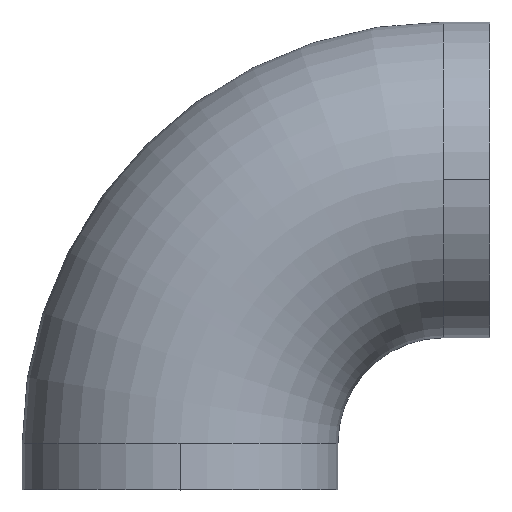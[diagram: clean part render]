
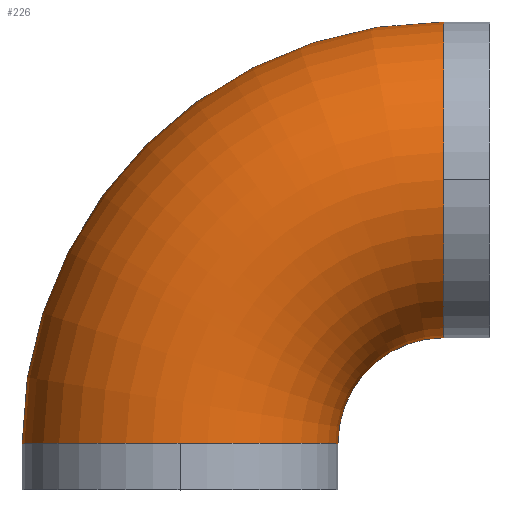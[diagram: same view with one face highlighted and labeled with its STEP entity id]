
A CAD part, top view. The second image highlights one B-rep face of the part: STEP entity #226.
In plain terms, the highlighted toroidal (fillet/blend) face has major radius 140.487 mm and minor radius 84.138 mm.
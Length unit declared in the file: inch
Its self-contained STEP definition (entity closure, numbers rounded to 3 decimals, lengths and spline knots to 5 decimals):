
#4 = EDGE_CURVE ( 'NONE', #258, #263, #237, .T. ) ;
#14 = EDGE_CURVE ( 'NONE', #264, #258, #85, .T. ) ;
#15 = EDGE_CURVE ( 'NONE', #263, #256, #95, .T. ) ;
#22 = EDGE_CURVE ( 'NONE', #259, #256, #104, .T. ) ;
#25 = AXIS2_PLACEMENT_3D ( 'NONE', #71, #74, #73 ) ;
#28 = AXIS2_PLACEMENT_3D ( 'NONE', #156, #148, #155 ) ;
#29 = AXIS2_PLACEMENT_3D ( 'NONE', #161, #169, #152 ) ;
#31 = AXIS2_PLACEMENT_3D ( 'NONE', #163, #162, #160 ) ;
#35 = AXIS2_PLACEMENT_3D ( 'NONE', #139, #138, #137 ) ;
#36 = AXIS2_PLACEMENT_3D ( 'NONE', #134, #133, #132 ) ;
#40 = AXIS2_PLACEMENT_3D ( 'NONE', #124, #125, #149 ) ;
#71 = CARTESIAN_POINT ( 'NONE',  ( 5.531, 0., 0. ) ) ;
#73 = DIRECTION ( 'NONE',  ( 0., 0., -1. ) ) ;
#74 = DIRECTION ( 'NONE',  ( 1., 0., 0. ) ) ;
#85 = CIRCLE ( 'NONE', #28, 8.8435 ) ;
#87 = TOROIDAL_SURFACE ( 'NONE', #40, 5.531, 3.3125 ) ;
#88 = CIRCLE ( 'NONE', #36, 3.3125 ) ;
#95 = CIRCLE ( 'NONE', #29, 3.3125 ) ;
#102 = CIRCLE ( 'NONE', #35, 3.3125 ) ;
#104 = CIRCLE ( 'NONE', #31, 2.2185 ) ;
#124 = CARTESIAN_POINT ( 'NONE',  ( 5.531, -5.531, 0. ) ) ;
#125 = DIRECTION ( 'NONE',  ( 0., 0., -1. ) ) ;
#132 = DIRECTION ( 'NONE',  ( 0., 0., -1. ) ) ;
#133 = DIRECTION ( 'NONE',  ( 0., -1., 0. ) ) ;
#134 = CARTESIAN_POINT ( 'NONE',  ( 0., -5.531, 0. ) ) ;
#137 = DIRECTION ( 'NONE',  ( 0., 0., -1. ) ) ;
#138 = DIRECTION ( 'NONE',  ( 0., -1., 0. ) ) ;
#139 = CARTESIAN_POINT ( 'NONE',  ( 0., -5.531, 0. ) ) ;
#148 = DIRECTION ( 'NONE',  ( 0., 0., -1. ) ) ;
#149 = DIRECTION ( 'NONE',  ( -1., 0., 0. ) ) ;
#152 = DIRECTION ( 'NONE',  ( 0., 0., -1. ) ) ;
#155 = DIRECTION ( 'NONE',  ( -1., 0., 0. ) ) ;
#156 = CARTESIAN_POINT ( 'NONE',  ( 5.531, -5.531, 0. ) ) ;
#160 = DIRECTION ( 'NONE',  ( -1., 0., 0. ) ) ;
#161 = CARTESIAN_POINT ( 'NONE',  ( 5.531, 0., 0. ) ) ;
#162 = DIRECTION ( 'NONE',  ( 0., 0., -1. ) ) ;
#163 = CARTESIAN_POINT ( 'NONE',  ( 5.531, -5.531, 0. ) ) ;
#168 = CARTESIAN_POINT ( 'NONE',  ( 5.531, -3.3125, 0. ) ) ;
#169 = DIRECTION ( 'NONE',  ( 1., 0., 0. ) ) ;
#175 = EDGE_CURVE ( 'NONE', #259, #265, #102, .T. ) ;
#176 = EDGE_CURVE ( 'NONE', #265, #264, #88, .T. ) ;
#218 = EDGE_LOOP ( 'NONE', ( #242, #245, #260, #271, #246, #238 ) ) ;
#226 = ADVANCED_FACE ( 'NONE', ( #314 ), #87, .T. ) ;
#237 = CIRCLE ( 'NONE', #25, 3.3125 ) ;
#238 = ORIENTED_EDGE ( 'NONE', *, *, #4, .F. ) ;
#242 = ORIENTED_EDGE ( 'NONE', *, *, #14, .F. ) ;
#245 = ORIENTED_EDGE ( 'NONE', *, *, #176, .F. ) ;
#246 = ORIENTED_EDGE ( 'NONE', *, *, #15, .F. ) ;
#256 = VERTEX_POINT ( 'NONE', #168 ) ;
#258 = VERTEX_POINT ( 'NONE', #289 ) ;
#259 = VERTEX_POINT ( 'NONE', #302 ) ;
#260 = ORIENTED_EDGE ( 'NONE', *, *, #175, .F. ) ;
#263 = VERTEX_POINT ( 'NONE', #279 ) ;
#264 = VERTEX_POINT ( 'NONE', #280 ) ;
#265 = VERTEX_POINT ( 'NONE', #283 ) ;
#271 = ORIENTED_EDGE ( 'NONE', *, *, #22, .T. ) ;
#279 = CARTESIAN_POINT ( 'NONE',  ( 5.531, 0., 3.3125 ) ) ;
#280 = CARTESIAN_POINT ( 'NONE',  ( -3.3125, -5.531, 0. ) ) ;
#283 = CARTESIAN_POINT ( 'NONE',  ( 0., -5.531, 3.3125 ) ) ;
#289 = CARTESIAN_POINT ( 'NONE',  ( 5.531, 3.3125, 0. ) ) ;
#302 = CARTESIAN_POINT ( 'NONE',  ( 3.3125, -5.531, 0. ) ) ;
#314 = FACE_OUTER_BOUND ( 'NONE', #218, .T. ) ;
